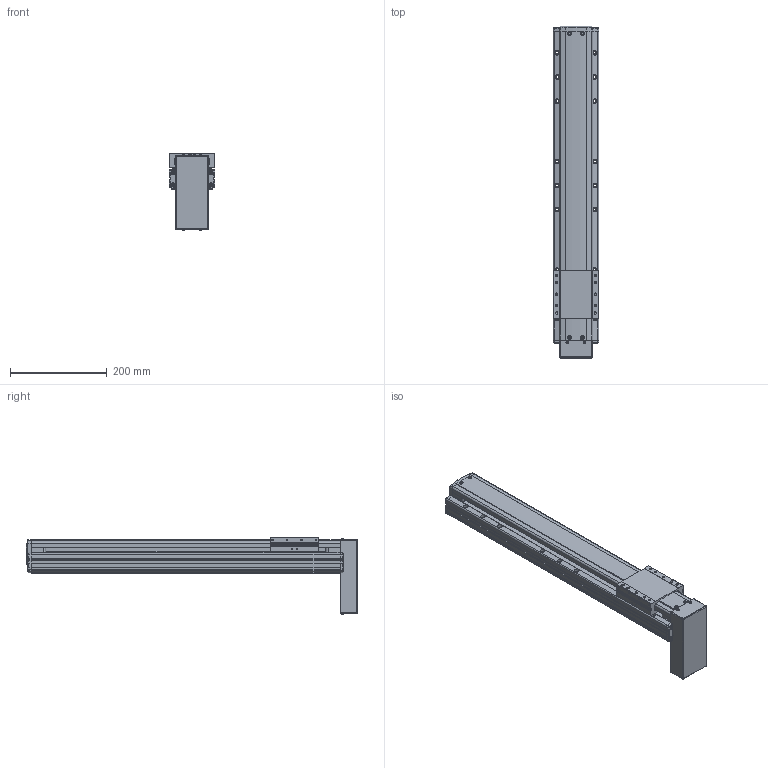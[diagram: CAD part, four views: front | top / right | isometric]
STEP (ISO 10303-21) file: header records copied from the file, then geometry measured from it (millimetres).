
FILE_DESCRIPTION(('STEP AP214'),'1');
FILE_NAME('Z:/Web/3D/PSA95/STP/PSA95-450 (3D)/PSA95ㅁㅁ-450PB.stp','2014-07-03T00:31:05',(' '),(' '),'Spatial InterOp 3D',' ',' ');
FILE_SCHEMA(('automotive_design'));
Length unit declared in the file: millimetre
Products named in the file (29): BASE; RRCV; 스크루 : Round - M4.0 x 10.0; 너트 : Square - M10.0 x 220.7419; RR1500; FRCV-090; 스크루 : Round - M4.0 x 6.0; SLBL-PA90; MTPL COVER; 스크루 : Round - M3.0 x 6.0; 1; 2
Bounding box: 95.1 x 687.5 x 159.57 mm (x, y, z)
Volume: 3915003.5 mm3; surface area: 413478.9 mm2
Topology: 29 solids, 29 shells, 2021 faces, 5385 edges, 3431 vertices
Faces by surface type: plane 1130, cylinder 597, cone 206, sphere 50, bspline 24, torus 14
Entity records: 81156 total; most frequent: CARTESIAN_POINT 13825, DIRECTION 10676, ORIENTED_EDGE 10514, EDGE_CURVE 5257, LINE 3564, VECTOR 3564, AXIS2_PLACEMENT_3D 3556, VERTEX_POINT 3431
